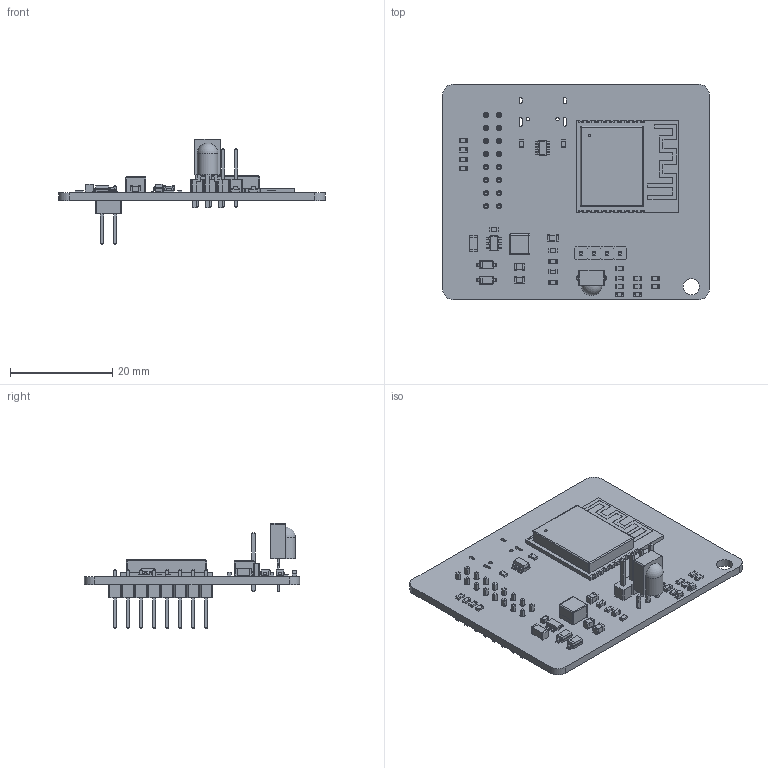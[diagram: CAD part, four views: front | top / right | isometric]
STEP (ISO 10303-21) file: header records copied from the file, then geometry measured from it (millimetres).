
FILE_DESCRIPTION(('KiCad electronic assembly'),'2;1');
FILE_NAME('AP1_Programador_modelo.step','2026-10-02T00:57:06',('Pcbnew') ,('Kicad'),'Open CASCADE STEP processor 7.6','KiCad to STEP converter' ,'Unknown');
FILE_SCHEMA(('AUTOMOTIVE_DESIGN { 1 0 10303 214 1 1 1 1 }'));
Length unit declared in the file: millimetre
Products named in the file (15): AP1_Programador_modelo 1; R_0603_1608Metric; C_0603_1608Metric; TSOT-23-6; C_0805_2012Metric; Vishay_MINICAST-3Pin; D_SOD-123; LED_0603_1608Metric; C_1206_3216Metric; L_Changjiang_FNR4030S; PinHeader_1x04_P2.54mm_Vertical; SOT-23-6; ESP32-C3-WROOM-02; PinHeader_2x08_P2.54mm_Vertical; AP1_Programador_PCB
Assembly tree (34 placements, depth 2):
  AP1_Programador_modelo 1
    R_0603_1608Metric  x14
    C_0603_1608Metric  x4
    TSOT-23-6
    C_0805_2012Metric  x3
    Vishay_MINICAST-3Pin
    D_SOD-123  x2
    LED_0603_1608Metric  x2
    C_1206_3216Metric
    L_Changjiang_FNR4030S
    PinHeader_1x04_P2.54mm_Vertical
    SOT-23-6
    ESP32-C3-WROOM-02
    PinHeader_2x08_P2.54mm_Vertical
    AP1_Programador_PCB
Bounding box: 52 x 42 x 20.57 mm (x, y, z)
Volume: 4632.4 mm3; surface area: 7614.8 mm2
Topology: 63 solids, 63 shells, 1995 faces, 5003 edges, 3187 vertices
Faces by surface type: plane 1494, cylinder 380, bspline 112, sphere 9
Full cylindrical faces by diameter (mm): 0.2 x12, 0.5 x1, 0.65 x2, 0.9 x3, 1 x20, 3.2 x1
Entity records: 40921 total; most frequent: CARTESIAN_POINT 7447, ORIENTED_EDGE 6922, DIRECTION 6468, EDGE_CURVE 3461, LINE 2960, VECTOR 2960, VERTEX_POINT 2197, AXIS2_PLACEMENT_3D 1754
